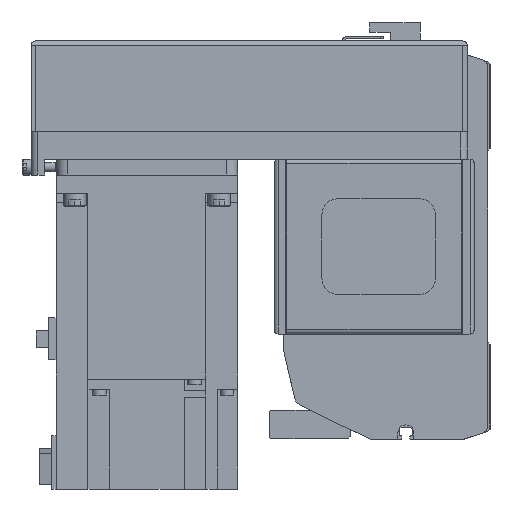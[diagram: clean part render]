
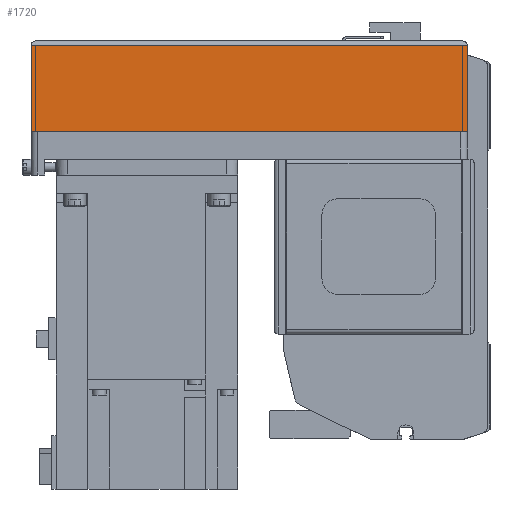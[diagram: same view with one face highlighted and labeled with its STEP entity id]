
A CAD part, left-side view. The second image highlights one B-rep face of the part: STEP entity #1720.
In plain terms, the highlighted planar face has unit normal (-1, 0, 0) as drawn and (0, 1, 0) by its records, which use the part's own axes.
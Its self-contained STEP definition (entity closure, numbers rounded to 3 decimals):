
#1720 = ADVANCED_FACE( '', ( #4068 ), #4069, .T. );
#4068 = FACE_OUTER_BOUND( '', #7190, .T. );
#4069 = PLANE( '', #7191 );
#7190 = EDGE_LOOP( '', ( #11922, #11923, #11924, #11925 ) );
#7191 = AXIS2_PLACEMENT_3D( '', #11926, #11927, #11928 );
#11922 = ORIENTED_EDGE( '', *, *, #18792, .F. );
#11923 = ORIENTED_EDGE( '', *, *, #19195, .F. );
#11924 = ORIENTED_EDGE( '', *, *, #19459, .T. );
#11925 = ORIENTED_EDGE( '', *, *, #18705, .T. );
#11926 = CARTESIAN_POINT( '', ( -192., 40., -50. ) );
#11927 = DIRECTION( '', ( 0., 1., 0. ) );
#11928 = DIRECTION( '', ( 0., 0., 1. ) );
#18705 = EDGE_CURVE( '', #22639, #22556, #22640, .T. );
#18792 = EDGE_CURVE( '', #22786, #22556, #22788, .T. );
#19195 = EDGE_CURVE( '', #23451, #22786, #23453, .T. );
#19459 = EDGE_CURVE( '', #23451, #22639, #23870, .T. );
#22556 = VERTEX_POINT( '', #28232 );
#22639 = VERTEX_POINT( '', #28357 );
#22640 = LINE( '', #28358, #28359 );
#22786 = VERTEX_POINT( '', #28558 );
#22788 = LINE( '', #28561, #28562 );
#23451 = VERTEX_POINT( '', #29435 );
#23453 = LINE( '', #29437, #29438 );
#23870 = LINE( '', #30033, #30034 );
#28232 = CARTESIAN_POINT( '', ( 0., 40., -12.1 ) );
#28357 = CARTESIAN_POINT( '', ( -192., 40., -12.1 ) );
#28358 = CARTESIAN_POINT( '', ( -192., 40., -12.1 ) );
#28359 = VECTOR( '', #34370, 1000. );
#28558 = CARTESIAN_POINT( '', ( 0., 40., -50. ) );
#28561 = CARTESIAN_POINT( '', ( 0., 40., -50. ) );
#28562 = VECTOR( '', #34486, 1000. );
#29435 = CARTESIAN_POINT( '', ( -192., 40., -50. ) );
#29437 = CARTESIAN_POINT( '', ( -192., 40., -50. ) );
#29438 = VECTOR( '', #35013, 1000. );
#30033 = CARTESIAN_POINT( '', ( -192., 40., -50. ) );
#30034 = VECTOR( '', #35337, 1000. );
#34370 = DIRECTION( '', ( 1., 0., 0. ) );
#34486 = DIRECTION( '', ( 0., 0., 1. ) );
#35013 = DIRECTION( '', ( 1., 0., 0. ) );
#35337 = DIRECTION( '', ( 0., 0., 1. ) );
